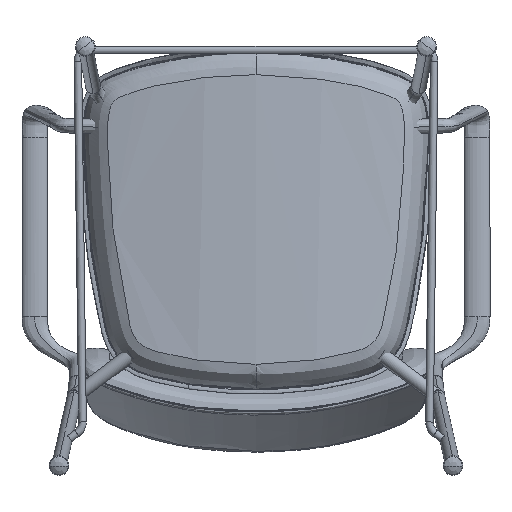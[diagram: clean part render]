
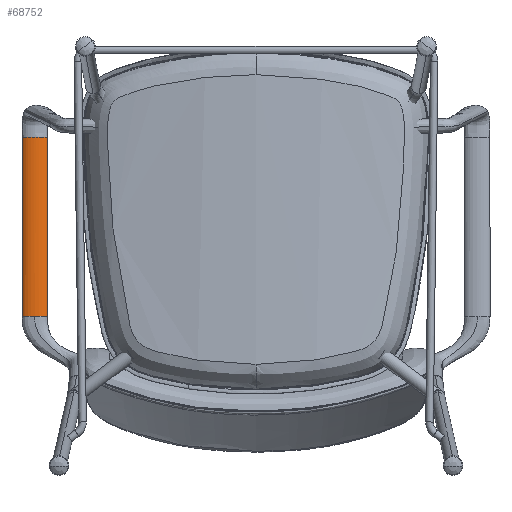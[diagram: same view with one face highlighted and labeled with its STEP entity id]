
A CAD part, front view. The second image highlights one B-rep face of the part: STEP entity #68752.
In plain terms, the highlighted free-form (B-spline) face has degree [3, 1] with [7, 2] control points.
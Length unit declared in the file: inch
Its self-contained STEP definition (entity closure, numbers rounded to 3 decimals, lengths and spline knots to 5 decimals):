
#259 = CARTESIAN_POINT ( 'NONE',  ( -11.94417, 25.78409, 2.89852 ) ) ;
#1066 = CARTESIAN_POINT ( 'NONE',  ( -11.07497, 25.74706, 2.89852 ) ) ;
#4094 = CARTESIAN_POINT ( 'NONE',  ( -11.8491, 25.68703, -6.38192 ) ) ;
#5118 = CARTESIAN_POINT ( 'NONE',  ( -12.12723, 25.99834, 2.89852 ) ) ;
#7517 = ORIENTED_EDGE ( 'NONE', *, *, #201268, .T. ) ;
#7934 = VERTEX_POINT ( 'NONE', #197399 ) ;
#9621 = CARTESIAN_POINT ( 'NONE',  ( -11.07533, 25.68874, -6.38192 ) ) ;
#17340 = VERTEX_POINT ( 'NONE', #120308 ) ;
#19321 = CARTESIAN_POINT ( 'NONE',  ( -11.85269, 25.74702, 2.89852 ) ) ;
#20142 = CARTESIAN_POINT ( 'NONE',  ( -10.98351, 25.78415, 2.89852 ) ) ;
#23169 = CARTESIAN_POINT ( 'NONE',  ( -11.45763, 25.68876, -6.38192 ) ) ;
#25050 = CARTESIAN_POINT ( 'NONE',  ( -11.85247, 25.68874, -6.38192 ) ) ;
#25858 = EDGE_LOOP ( 'NONE', ( #180394, #7517, #168297, #56546, #67213 ) ) ;
#38401 = CARTESIAN_POINT ( 'NONE',  ( -11.7417, 25.71633, 2.89852 ) ) ;
#39215 = CARTESIAN_POINT ( 'NONE',  ( -10.89888, 25.83491, 2.89852 ) ) ;
#42258 = CARTESIAN_POINT ( 'NONE',  ( -11.06616, 25.69048, -6.38192 ) ) ;
#47425 =( BOUNDED_SURFACE ( )  B_SPLINE_SURFACE ( 3, 1, ( 
 ( #79603, #193255 ),
 ( #98676, #231427 ),
 ( #117733, #4094 ),
 ( #136812, #23169 ),
 ( #155884, #42258 ),
 ( #174984, #61340 ),
 ( #194072, #80418 ) ),
 .UNSPECIFIED., .F., .F., .F. ) 
 B_SPLINE_SURFACE_WITH_KNOTS ( ( 4, 3, 4 ),
 ( 2, 2 ),
 ( 0., 0.5, 1. ),
 ( 0., 1. ),
 .UNSPECIFIED. ) 
 GEOMETRIC_REPRESENTATION_ITEM ( )  RATIONAL_B_SPLINE_SURFACE ( (
 ( 1., 1.),
 ( 0.803, 0.803),
 ( 0.803, 0.803),
 ( 1., 1.),
 ( 0.803, 0.803),
 ( 0.803, 0.803),
 ( 1., 1.) ) ) 
 REPRESENTATION_ITEM ( '' )  SURFACE ( )  );
#55029 = CARTESIAN_POINT ( 'NONE',  ( -12.12723, 25.99012, 2.89852 ) ) ;
#56546 = ORIENTED_EDGE ( 'NONE', *, *, #86228, .T. ) ;
#57483 = CARTESIAN_POINT ( 'NONE',  ( -11.56256, 25.69102, 2.89852 ) ) ;
#57669 = CARTESIAN_POINT ( 'NONE',  ( -12.12723, 25.99834, 2.89852 ) ) ;
#58306 = CARTESIAN_POINT ( 'NONE',  ( -10.82931, 25.90488, 2.89852 ) ) ;
#61340 = CARTESIAN_POINT ( 'NONE',  ( -10.79329, 25.82151, -6.38192 ) ) ;
#66846 = CARTESIAN_POINT ( 'NONE',  ( -10.80058, 25.99834, -6.38192 ) ) ;
#67213 = ORIENTED_EDGE ( 'NONE', *, *, #245761, .F. ) ;
#68752 = ADVANCED_FACE ( 'NONE', ( #88294 ), #47425, .F. ) ;
#71378 = EDGE_CURVE ( 'NONE', #198052, #91124, #225735, .T. ) ;
#71823 = CARTESIAN_POINT ( 'NONE',  ( -10.80058, 25.99834, 2.89852 ) ) ;
#75767 = CARTESIAN_POINT ( 'NONE',  ( -12.11761, 25.94166, 2.89852 ) ) ;
#76585 = CARTESIAN_POINT ( 'NONE',  ( -11.43099, 25.68874, 2.89852 ) ) ;
#77401 = CARTESIAN_POINT ( 'NONE',  ( -10.80202, 25.97369, 2.89852 ) ) ;
#79603 = CARTESIAN_POINT ( 'NONE',  ( -12.12723, 25.99834, 2.89852 ) ) ;
#80418 = CARTESIAN_POINT ( 'NONE',  ( -10.80069, 26.0042, -6.38192 ) ) ;
#86228 = EDGE_CURVE ( 'NONE', #217323, #7934, #231450, .T. ) ;
#88294 = FACE_OUTER_BOUND ( 'NONE', #25858, .T. ) ;
#91124 = VERTEX_POINT ( 'NONE', #196935 ) ;
#94840 = CARTESIAN_POINT ( 'NONE',  ( -12.06645, 25.867, 2.89852 ) ) ;
#95664 = CARTESIAN_POINT ( 'NONE',  ( -11.26692, 25.70143, 2.89852 ) ) ;
#96476 = CARTESIAN_POINT ( 'NONE',  ( -10.80058, 25.99835, 2.89852 ) ) ;
#98676 = CARTESIAN_POINT ( 'NONE',  ( -12.12723, 25.81562, 2.89852 ) ) ;
#100548 = CARTESIAN_POINT ( 'NONE',  ( -12.12723, 25.81698, -6.38192 ) ) ;
#113896 = CARTESIAN_POINT ( 'NONE',  ( -11.98768, 25.80748, 2.89852 ) ) ;
#114720 = CARTESIAN_POINT ( 'NONE',  ( -11.12216, 25.73257, 2.89852 ) ) ;
#115542 = CARTESIAN_POINT ( 'NONE',  ( -10.80058, 25.99835, 2.89852 ) ) ;
#116145 = LINE ( 'NONE', #57669, #160660 ) ;
#117733 = CARTESIAN_POINT ( 'NONE',  ( -11.8491, 25.68703, 2.89852 ) ) ;
#120308 = CARTESIAN_POINT ( 'NONE',  ( -12.12723, 25.99834, -6.38192 ) ) ;
#132961 = CARTESIAN_POINT ( 'NONE',  ( -11.89902, 25.76409, 2.89852 ) ) ;
#133787 = CARTESIAN_POINT ( 'NONE',  ( -11.02865, 25.76414, 2.89852 ) ) ;
#136812 = CARTESIAN_POINT ( 'NONE',  ( -11.45763, 25.68876, 2.89852 ) ) ;
#139941 = VECTOR ( 'NONE', #204529, 39.37008 ) ;
#142340 = CARTESIAN_POINT ( 'NONE',  ( -11.4639, 25.68874, -6.38192 ) ) ;
#152038 = CARTESIAN_POINT ( 'NONE',  ( -11.8055, 25.73253, 2.89852 ) ) ;
#152855 = CARTESIAN_POINT ( 'NONE',  ( -10.94001, 25.80754, 2.89852 ) ) ;
#155884 = CARTESIAN_POINT ( 'NONE',  ( -11.06616, 25.69048, 2.89852 ) ) ;
#157761 = CARTESIAN_POINT ( 'NONE',  ( -11.4639, 25.68874, -6.38192 ) ) ;
#158371 =( BOUNDED_CURVE ( )  B_SPLINE_CURVE ( 3, ( #233288, #100548, #25050, #157761 ),
 .UNSPECIFIED., .F., .F. ) 
 B_SPLINE_CURVE_WITH_KNOTS ( ( 4, 4 ),
 ( 0.46708, 1. ),
 .UNSPECIFIED. ) 
 CURVE ( )  GEOMETRIC_REPRESENTATION_ITEM ( )  RATIONAL_B_SPLINE_CURVE ( ( 1., 0.805, 0.805, 1. ) ) 
 REPRESENTATION_ITEM ( '' )  );
#160660 = VECTOR ( 'NONE', #171311, 39.37008 ) ;
#161360 = EDGE_CURVE ( 'NONE', #17340, #217323, #158371, .T. ) ;
#168297 = ORIENTED_EDGE ( 'NONE', *, *, #161360, .T. ) ;
#170317 = CARTESIAN_POINT ( 'NONE',  ( -12.12723, 25.99834, 2.89852 ) ) ;
#171128 = CARTESIAN_POINT ( 'NONE',  ( -11.66076, 25.70141, 2.89852 ) ) ;
#171311 = DIRECTION ( 'NONE',  ( 0., 0., -1. ) ) ;
#171955 = CARTESIAN_POINT ( 'NONE',  ( -10.86129, 25.86706, 2.89852 ) ) ;
#174984 = CARTESIAN_POINT ( 'NONE',  ( -10.79329, 25.82151, 2.89852 ) ) ;
#180394 = ORIENTED_EDGE ( 'NONE', *, *, #71378, .F. ) ;
#180496 = CARTESIAN_POINT ( 'NONE',  ( -10.80058, 25.81698, -6.38192 ) ) ;
#189410 = CARTESIAN_POINT ( 'NONE',  ( -12.12578, 25.97367, 2.89852 ) ) ;
#190229 = CARTESIAN_POINT ( 'NONE',  ( -11.49679, 25.68874, 2.89852 ) ) ;
#190418 = LINE ( 'NONE', #71823, #139941 ) ;
#191044 = CARTESIAN_POINT ( 'NONE',  ( -10.81018, 25.9417, 2.89852 ) ) ;
#193255 = CARTESIAN_POINT ( 'NONE',  ( -12.12723, 25.99834, -6.38192 ) ) ;
#194072 = CARTESIAN_POINT ( 'NONE',  ( -10.80069, 26.0042, 2.89852 ) ) ;
#196935 = CARTESIAN_POINT ( 'NONE',  ( -10.80058, 25.99835, 2.89852 ) ) ;
#197399 = CARTESIAN_POINT ( 'NONE',  ( -10.80058, 25.99834, -6.38192 ) ) ;
#198052 = VERTEX_POINT ( 'NONE', #5118 ) ;
#201268 = EDGE_CURVE ( 'NONE', #198052, #17340, #116145, .T. ) ;
#204529 = DIRECTION ( 'NONE',  ( 0., 0., -1. ) ) ;
#208480 = CARTESIAN_POINT ( 'NONE',  ( -12.09846, 25.90483, 2.89852 ) ) ;
#209297 = CARTESIAN_POINT ( 'NONE',  ( -11.36516, 25.69102, 2.89852 ) ) ;
#210115 = CARTESIAN_POINT ( 'NONE',  ( -10.80058, 25.99012, 2.89852 ) ) ;
#217323 = VERTEX_POINT ( 'NONE', #225352 ) ;
#225352 = CARTESIAN_POINT ( 'NONE',  ( -11.4639, 25.68874, -6.38192 ) ) ;
#225735 = B_SPLINE_CURVE_WITH_KNOTS ( 'NONE', 3,
 ( #170317, #55029, #189410, #75767, #208480, #94840, #227594, #113896, #259, #132961, #19321, #152038, #38401, #171128, #57483, #190229, #76585, #209297, #95664, #228421, #114720, #1066, #133787, #20142, #152855, #39215, #171955, #58306, #191044, #77401, #210115, #96476, #229230, #115542 ),
 .UNSPECIFIED., .F., .F.,
 ( 4, 1, 1, 1, 1, 1, 1, 1, 1, 1, 1, 1, 1, 1, 2, 1, 1, 1, 1, 1, 1, 1, 1, 1, 1, 1, 1, 1, 2, 4 ),
 ( 0.50001, 0.50782, 0.51562, 0.53124, 0.54686, 0.56248, 0.5781, 0.59371, 0.60933, 0.62495, 0.64057, 0.65619, 0.68742, 0.71866, 0.74989, 0.78116, 0.81242, 0.84368, 0.85932, 0.87495, 0.89058, 0.90621, 0.92184, 0.93747, 0.95311, 0.96874, 0.98437, 0.99218, 1., 1.00001 ),
 .UNSPECIFIED. ) ;
#227594 = CARTESIAN_POINT ( 'NONE',  ( -12.02883, 25.83485, 2.89852 ) ) ;
#228421 = CARTESIAN_POINT ( 'NONE',  ( -11.18596, 25.71636, 2.89852 ) ) ;
#229230 = CARTESIAN_POINT ( 'NONE',  ( -10.80058, 25.99836, 2.89852 ) ) ;
#231427 = CARTESIAN_POINT ( 'NONE',  ( -12.12723, 25.81562, -6.38192 ) ) ;
#231450 =( BOUNDED_CURVE ( )  B_SPLINE_CURVE ( 3, ( #142340, #9621, #180496, #66846 ),
 .UNSPECIFIED., .F., .T. ) 
 B_SPLINE_CURVE_WITH_KNOTS ( ( 4, 4 ),
 ( 0., 0.47091 ),
 .UNSPECIFIED. ) 
 CURVE ( )  GEOMETRIC_REPRESENTATION_ITEM ( )  RATIONAL_B_SPLINE_CURVE ( ( 1., 0.805, 0.805, 1. ) ) 
 REPRESENTATION_ITEM ( '' )  );
#233288 = CARTESIAN_POINT ( 'NONE',  ( -12.12723, 25.99834, -6.38192 ) ) ;
#245761 = EDGE_CURVE ( 'NONE', #91124, #7934, #190418, .T. ) ;
